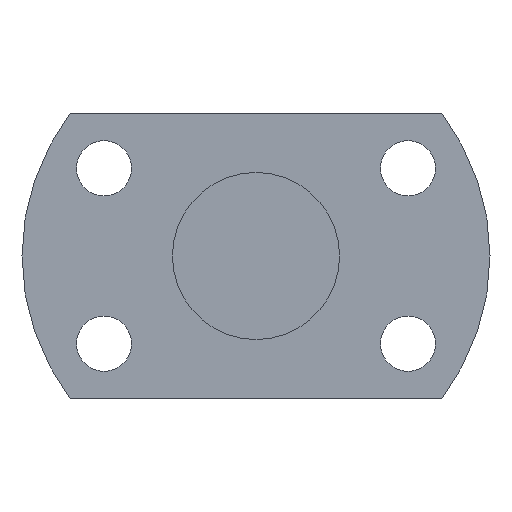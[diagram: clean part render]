
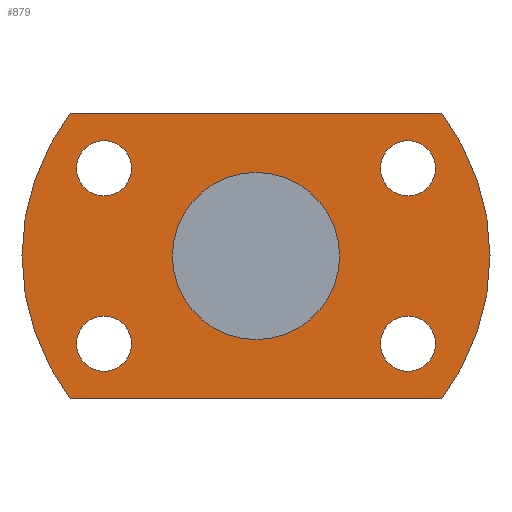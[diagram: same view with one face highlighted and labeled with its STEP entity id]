
A CAD part, left-side view. The second image highlights one B-rep face of the part: STEP entity #879.
In plain terms, the highlighted planar face has unit normal (-1, 0, 0).
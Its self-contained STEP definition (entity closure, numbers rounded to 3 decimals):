
#230=CARTESIAN_POINT('',(130.0,18.187,-7.2));
#231=VERTEX_POINT('',#230);
#232=CARTESIAN_POINT('',(130.0,18.187,-10.5));
#233=DIRECTION('',(1.0,0.0,0.0));
#234=DIRECTION('',(0.0,0.0,1.0));
#235=AXIS2_PLACEMENT_3D('',#232,#233,#234);
#236=CIRCLE('',#235,3.3);
#237=EDGE_CURVE('',#231,#231,#236,.T.);
#279=CARTESIAN_POINT('',(130.0,-18.187,13.8));
#280=VERTEX_POINT('',#279);
#281=CARTESIAN_POINT('',(130.0,-18.187,10.5));
#282=DIRECTION('',(1.0,0.0,0.0));
#283=DIRECTION('',(0.0,0.0,1.0));
#284=AXIS2_PLACEMENT_3D('',#281,#282,#283);
#285=CIRCLE('',#284,3.3);
#286=EDGE_CURVE('',#280,#280,#285,.T.);
#328=CARTESIAN_POINT('',(130.0,-18.187,-7.2));
#329=VERTEX_POINT('',#328);
#330=CARTESIAN_POINT('',(130.0,-18.187,-10.5));
#331=DIRECTION('',(1.0,0.0,0.0));
#332=DIRECTION('',(0.0,0.0,1.0));
#333=AXIS2_PLACEMENT_3D('',#330,#331,#332);
#334=CIRCLE('',#333,3.3);
#335=EDGE_CURVE('',#329,#329,#334,.T.);
#377=CARTESIAN_POINT('',(130.0,18.187,13.8));
#378=VERTEX_POINT('',#377);
#379=CARTESIAN_POINT('',(130.0,18.187,10.5));
#380=DIRECTION('',(1.0,0.0,0.0));
#381=DIRECTION('',(0.0,0.0,1.0));
#382=AXIS2_PLACEMENT_3D('',#379,#380,#381);
#383=CIRCLE('',#382,3.3);
#384=EDGE_CURVE('',#378,#378,#383,.T.);
#685=CARTESIAN_POINT('',(130.0,-22.249,-17.0));
#686=VERTEX_POINT('',#685);
#693=CARTESIAN_POINT('',(130.0,22.249,-17.0));
#694=VERTEX_POINT('',#693);
#695=CARTESIAN_POINT('',(130.0,22.249,-17.0));
#696=DIRECTION('',(0.0,-1.0,0.0));
#697=VECTOR('',#696,44.497);
#698=LINE('',#695,#697);
#699=EDGE_CURVE('',#694,#686,#698,.T.);
#716=CARTESIAN_POINT('',(130.0,-22.249,17.0));
#717=VERTEX_POINT('',#716);
#724=CARTESIAN_POINT('',(130.0,0.0,0.));
#725=DIRECTION('',(-1.0,0.0,0.0));
#726=DIRECTION('',(0.0,0.0,1.0));
#727=AXIS2_PLACEMENT_3D('',#724,#725,#726);
#728=CIRCLE('',#727,28.);
#729=EDGE_CURVE('',#686,#717,#728,.T.);
#741=CARTESIAN_POINT('',(130.0,22.249,17.0));
#742=VERTEX_POINT('',#741);
#749=CARTESIAN_POINT('',(130.0,-22.249,17.0));
#750=DIRECTION('',(0.0,1.0,0.0));
#751=VECTOR('',#750,44.497);
#752=LINE('',#749,#751);
#753=EDGE_CURVE('',#717,#742,#752,.T.);
#766=CARTESIAN_POINT('',(130.0,0.0,0.));
#767=DIRECTION('',(-1.0,0.0,0.0));
#768=DIRECTION('',(0.0,0.0,1.0));
#769=AXIS2_PLACEMENT_3D('',#766,#767,#768);
#770=CIRCLE('',#769,28.);
#771=EDGE_CURVE('',#742,#694,#770,.T.);
#845=CARTESIAN_POINT('',(130.0,0.0,13.));
#846=DIRECTION('',(-1.0,0.0,0.0));
#847=DIRECTION('',(0.0,0.0,1.0));
#848=AXIS2_PLACEMENT_3D('',#845,#846,#847);
#849=PLANE('',#848);
#850=ORIENTED_EDGE('',*,*,#771,.T.);
#851=ORIENTED_EDGE('',*,*,#699,.T.);
#852=ORIENTED_EDGE('',*,*,#729,.T.);
#853=ORIENTED_EDGE('',*,*,#753,.T.);
#854=EDGE_LOOP('',(#850,#851,#852,#853));
#855=FACE_OUTER_BOUND('',#854,.T.);
#856=ORIENTED_EDGE('',*,*,#237,.T.);
#857=EDGE_LOOP('',(#856));
#858=FACE_BOUND('',#857,.T.);
#859=ORIENTED_EDGE('',*,*,#286,.T.);
#860=EDGE_LOOP('',(#859));
#861=FACE_BOUND('',#860,.T.);
#862=ORIENTED_EDGE('',*,*,#335,.T.);
#863=EDGE_LOOP('',(#862));
#864=FACE_BOUND('',#863,.T.);
#865=ORIENTED_EDGE('',*,*,#384,.T.);
#866=EDGE_LOOP('',(#865));
#867=FACE_BOUND('',#866,.T.);
#868=CARTESIAN_POINT('',(130.0,0.0,10.));
#869=VERTEX_POINT('',#868);
#870=CARTESIAN_POINT('',(130.0,0.0,0.));
#871=DIRECTION('',(-1.0,0.0,0.0));
#872=DIRECTION('',(0.0,0.0,1.0));
#873=AXIS2_PLACEMENT_3D('',#870,#871,#872);
#874=CIRCLE('',#873,10.);
#875=EDGE_CURVE('',#869,#869,#874,.T.);
#876=ORIENTED_EDGE('',*,*,#875,.F.);
#877=EDGE_LOOP('',(#876));
#878=FACE_BOUND('',#877,.T.);
#879=ADVANCED_FACE('',(#855,#858,#861,#864,#867,#878),#849,.T.);
